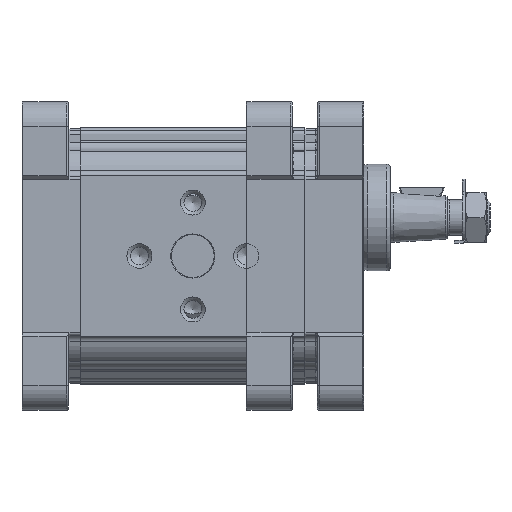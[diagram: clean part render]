
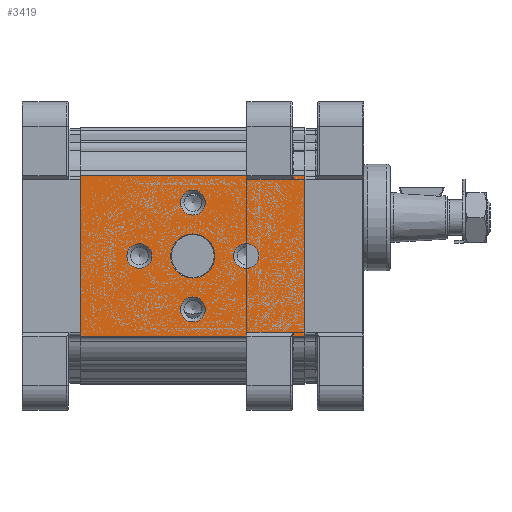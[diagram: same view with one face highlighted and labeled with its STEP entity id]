
A CAD part, left-side view. The second image highlights one B-rep face of the part: STEP entity #3419.
In plain terms, the highlighted planar face has unit normal (-1, 0, 0) as drawn and (1, 0, 0) by its records, which use the part's own axes.
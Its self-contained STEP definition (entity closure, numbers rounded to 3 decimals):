
#3419 = ADVANCED_FACE( '', ( #7304, #7305, #7306, #7307, #7308, #7309 ), #7310, .T. );
#7304 = FACE_BOUND( '', #11801, .T. );
#7305 = FACE_BOUND( '', #11802, .T. );
#7306 = FACE_BOUND( '', #11803, .T. );
#7307 = FACE_BOUND( '', #11804, .T. );
#7308 = FACE_BOUND( '', #11805, .T. );
#7309 = FACE_OUTER_BOUND( '', #11806, .T. );
#7310 = PLANE( '', #11807 );
#11801 = EDGE_LOOP( '', ( #22081 ) );
#11802 = EDGE_LOOP( '', ( #22082 ) );
#11803 = EDGE_LOOP( '', ( #22083 ) );
#11804 = EDGE_LOOP( '', ( #22084 ) );
#11805 = EDGE_LOOP( '', ( #22085 ) );
#11806 = EDGE_LOOP( '', ( #22086, #22087, #22088, #22089 ) );
#11807 = AXIS2_PLACEMENT_3D( '', #22090, #22091, #22092 );
#22081 = ORIENTED_EDGE( '', *, *, #25104, .T. );
#22082 = ORIENTED_EDGE( '', *, *, #26451, .T. );
#22083 = ORIENTED_EDGE( '', *, *, #27456, .T. );
#22084 = ORIENTED_EDGE( '', *, *, #26322, .T. );
#22085 = ORIENTED_EDGE( '', *, *, #27205, .T. );
#22086 = ORIENTED_EDGE( '', *, *, #27776, .T. );
#22087 = ORIENTED_EDGE( '', *, *, #28546, .T. );
#22088 = ORIENTED_EDGE( '', *, *, #28547, .T. );
#22089 = ORIENTED_EDGE( '', *, *, #28149, .F. );
#22090 = CARTESIAN_POINT( '', ( 33., 133.537, -45.494 ) );
#22091 = DIRECTION( '', ( 1., 0., 0. ) );
#22092 = DIRECTION( '', ( 0., 0., -1. ) );
#25104 = EDGE_CURVE( '', #30017, #30017, #30018, .F. );
#26322 = EDGE_CURVE( '', #32001, #32001, #32002, .F. );
#26451 = EDGE_CURVE( '', #32206, #32206, #32207, .F. );
#27205 = EDGE_CURVE( '', #33300, #33300, #33301, .F. );
#27456 = EDGE_CURVE( '', #33640, #33640, #33641, .F. );
#27776 = EDGE_CURVE( '', #34069, #34070, #34071, .T. );
#28149 = EDGE_CURVE( '', #34069, #34550, #34551, .T. );
#28546 = EDGE_CURVE( '', #34070, #35003, #35004, .T. );
#28547 = EDGE_CURVE( '', #35003, #34550, #35005, .F. );
#30017 = VERTEX_POINT( '', #37376 );
#30018 = CIRCLE( '', #37377, 6.2 );
#32001 = VERTEX_POINT( '', #40805 );
#32002 = CIRCLE( '', #40806, 3.5 );
#32206 = VERTEX_POINT( '', #41096 );
#32207 = CIRCLE( '', #41097, 3.5 );
#33300 = VERTEX_POINT( '', #43051 );
#33301 = CIRCLE( '', #43052, 3.5 );
#33640 = VERTEX_POINT( '', #43644 );
#33641 = CIRCLE( '', #43645, 3.5 );
#34069 = VERTEX_POINT( '', #44336 );
#34070 = VERTEX_POINT( '', #44337 );
#34071 = LINE( '', #44338, #44339 );
#34550 = VERTEX_POINT( '', #45154 );
#34551 = LINE( '', #45155, #45156 );
#35003 = VERTEX_POINT( '', #45913 );
#35004 = LINE( '', #45914, #45915 );
#35005 = LINE( '', #45916, #45917 );
#37376 = CARTESIAN_POINT( '', ( 33., 31.5, -6.2 ) );
#37377 = AXIS2_PLACEMENT_3D( '', #47286, #47287, #47288 );
#40805 = CARTESIAN_POINT( '', ( 33., 31.5, 11.5 ) );
#40806 = AXIS2_PLACEMENT_3D( '', #48892, #48893, #48894 );
#41096 = CARTESIAN_POINT( '', ( 33., 31.5, -18.5 ) );
#41097 = AXIS2_PLACEMENT_3D( '', #49083, #49084, #49085 );
#43051 = CARTESIAN_POINT( '', ( 33., 16.5, -3.5 ) );
#43052 = AXIS2_PLACEMENT_3D( '', #49993, #49994, #49995 );
#43644 = CARTESIAN_POINT( '', ( 33., 46.5, -3.5 ) );
#43645 = AXIS2_PLACEMENT_3D( '', #50281, #50282, #50283 );
#44336 = CARTESIAN_POINT( '', ( 33., 63., 22.5 ) );
#44337 = CARTESIAN_POINT( '', ( 33., 0., 22.5 ) );
#44338 = CARTESIAN_POINT( '', ( 33., 63., 22.5 ) );
#44339 = VECTOR( '', #50681, 1000. );
#45154 = CARTESIAN_POINT( '', ( 33., 63., -22.5 ) );
#45155 = CARTESIAN_POINT( '', ( 33., 63., -21.711 ) );
#45156 = VECTOR( '', #51172, 1000. );
#45913 = CARTESIAN_POINT( '', ( 33., 0., -22.5 ) );
#45914 = CARTESIAN_POINT( '', ( 33., 0., -21.711 ) );
#45915 = VECTOR( '', #51559, 1000. );
#45916 = CARTESIAN_POINT( '', ( 33., 63., -22.5 ) );
#45917 = VECTOR( '', #51560, 1000. );
#47286 = CARTESIAN_POINT( '', ( 33., 31.5, 0. ) );
#47287 = DIRECTION( '', ( 1., 0., 0. ) );
#47288 = DIRECTION( '', ( 0., 0., -1. ) );
#48892 = CARTESIAN_POINT( '', ( 33., 31.5, 15. ) );
#48893 = DIRECTION( '', ( 1., 0., 0. ) );
#48894 = DIRECTION( '', ( 0., 0., -1. ) );
#49083 = CARTESIAN_POINT( '', ( 33., 31.5, -15. ) );
#49084 = DIRECTION( '', ( 1., 0., 0. ) );
#49085 = DIRECTION( '', ( 0., 0., -1. ) );
#49993 = CARTESIAN_POINT( '', ( 33., 16.5, 0. ) );
#49994 = DIRECTION( '', ( 1., 0., 0. ) );
#49995 = DIRECTION( '', ( 0., 0., -1. ) );
#50281 = CARTESIAN_POINT( '', ( 33., 46.5, 0. ) );
#50282 = DIRECTION( '', ( 1., 0., 0. ) );
#50283 = DIRECTION( '', ( 0., 0., -1. ) );
#50681 = DIRECTION( '', ( 0., -1., 0. ) );
#51172 = DIRECTION( '', ( 0., 0., -1. ) );
#51559 = DIRECTION( '', ( 0., 0., -1. ) );
#51560 = DIRECTION( '', ( 0., -1., 0. ) );
